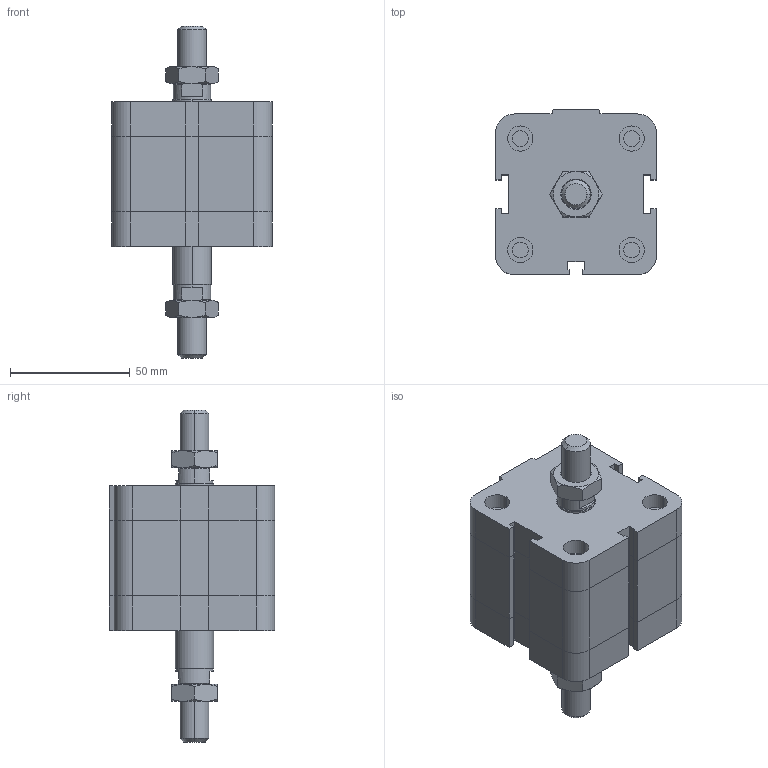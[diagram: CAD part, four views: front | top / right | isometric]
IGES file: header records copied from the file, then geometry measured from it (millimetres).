
Global section: file name: No Iges File Name specified; native system: Autodesk Inventor 2009; preprocessor: AutoDesk Inventor Iges Exporter R2009; author: maffial1; date: 20090420.200718; units: millimetre
Bounding box: 67 x 69 x 138.5 mm (x, y, z)
Volume: 264193.8 mm3; surface area: 43147.5 mm2
Topology: 4 solids, 4 shells, 260 faces, 574 edges, 342 vertices
Faces by surface type: plane 129, bspline 51, cone 38, cylinder 22, revolution 20
